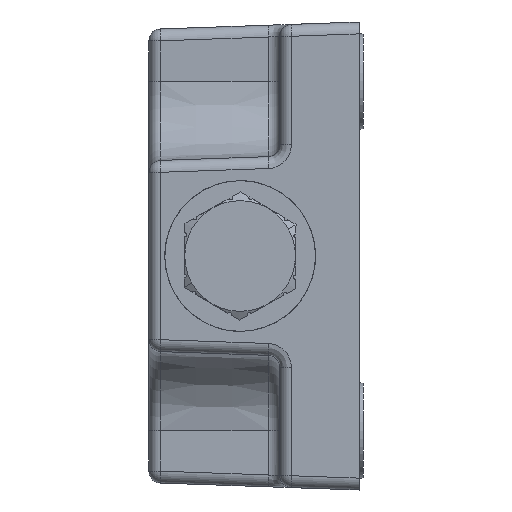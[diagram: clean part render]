
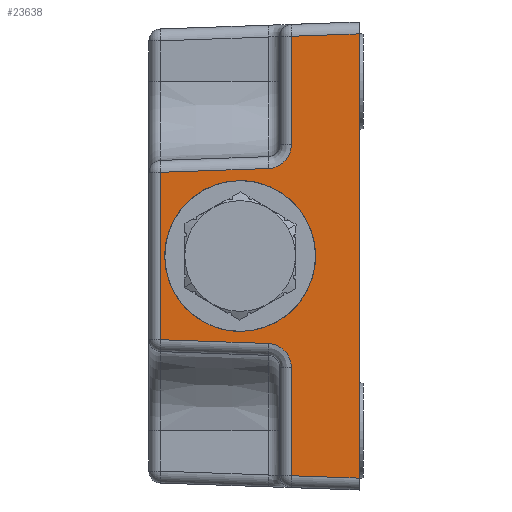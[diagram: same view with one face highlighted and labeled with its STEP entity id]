
A CAD part, left-side view. The second image highlights one B-rep face of the part: STEP entity #23638.
In plain terms, the highlighted planar face has unit normal (-0.999, 0.035, 0).
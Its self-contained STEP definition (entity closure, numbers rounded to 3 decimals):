
#169 = CARTESIAN_POINT ( 'NONE',  ( -37.889, 2.741, 9.5 ) ) ;
#408 = VECTOR ( 'NONE', #7441, 1000. ) ;
#1274 = EDGE_CURVE ( 'NONE', #3977, #6809, #6119, .T. ) ;
#1823 = VERTEX_POINT ( 'NONE', #17234 ) ;
#1885 = VERTEX_POINT ( 'NONE', #7640 ) ;
#2252 = LINE ( 'NONE', #26240, #3018 ) ;
#2757 = EDGE_CURVE ( 'NONE', #1885, #30628, #4954, .T. ) ;
#3018 = VECTOR ( 'NONE', #11635, 1000. ) ;
#3117 = CARTESIAN_POINT ( 'NONE',  ( -38.114, -3.707, -12.316 ) ) ;
#3977 = VERTEX_POINT ( 'NONE', #21959 ) ;
#4613 = LINE ( 'NONE', #18840, #23301 ) ;
#4954 = LINE ( 'NONE', #19009, #30900 ) ;
#5091 = VERTEX_POINT ( 'NONE', #8763 ) ;
#5629 = ORIENTED_EDGE ( 'NONE', *, *, #14513, .T. ) ;
#5685 = CARTESIAN_POINT ( 'NONE',  ( -37.889, 2.741, 9.5 ) ) ;
#5918 = CARTESIAN_POINT ( 'NONE',  ( -38.435, -12.889, -11.448 ) ) ;
#5970 = VECTOR ( 'NONE', #26701, 1000. ) ;
#5977 = CARTESIAN_POINT ( 'NONE',  ( -38.413, -12.259, 28.001 ) ) ;
#6119 = LINE ( 'NONE', #22072, #408 ) ;
#6672 = DIRECTION ( 'NONE',  ( 0.035, 0.999, -0.035 ) ) ;
#6744 = LINE ( 'NONE', #12083, #5970 ) ;
#6809 = VERTEX_POINT ( 'NONE', #16618 ) ;
#6846 = DIRECTION ( 'NONE',  ( 0., 0., -1. ) ) ;
#7273 = ORIENTED_EDGE ( 'NONE', *, *, #21246, .T. ) ;
#7441 = DIRECTION ( 'NONE',  ( 0., 0., -1. ) ) ;
#7483 = CARTESIAN_POINT ( 'NONE',  ( -38.013, -0.811, 11.027 ) ) ;
#7595 = CARTESIAN_POINT ( 'NONE',  ( -38.114, -3.707, 12.316 ) ) ;
#7640 = CARTESIAN_POINT ( 'NONE',  ( -38.114, -3.707, 27.702 ) ) ;
#7984 = LINE ( 'NONE', #5918, #9067 ) ;
#8009 = ORIENTED_EDGE ( 'NONE', *, *, #1274, .T. ) ;
#8305 = CARTESIAN_POINT ( 'NONE',  ( -38.343, -10.256, 27.931 ) ) ;
#8310 = ORIENTED_EDGE ( 'NONE', *, *, #2757, .T. ) ;
#8763 = CARTESIAN_POINT ( 'NONE',  ( -38.413, -12.259, -28.001 ) ) ;
#9067 = VECTOR ( 'NONE', #23010, 1000. ) ;
#10059 = VERTEX_POINT ( 'NONE', #17069 ) ;
#10287 =( BOUNDED_CURVE ( )  B_SPLINE_CURVE ( 3, ( #20222, #3117, #27564, #12931 ),
 .UNSPECIFIED., .F., .T. ) 
 B_SPLINE_CURVE_WITH_KNOTS ( ( 4, 4 ),
 ( 0., 1.536 ),
 .UNSPECIFIED. ) 
 CURVE ( )  GEOMETRIC_REPRESENTATION_ITEM ( )  RATIONAL_B_SPLINE_CURVE ( ( 1., 0.813, 0.813, 1. ) ) 
 REPRESENTATION_ITEM ( '' )  );
#10620 = EDGE_CURVE ( 'NONE', #30915, #31504, #11648, .T. ) ;
#10766 = DIRECTION ( 'NONE',  ( 0.035, 0.999, -0.035 ) ) ;
#11070 = ORIENTED_EDGE ( 'NONE', *, *, #12244, .T. ) ;
#11221 = ORIENTED_EDGE ( 'NONE', *, *, #24865, .T. ) ;
#11635 = DIRECTION ( 'NONE',  ( 0., 0., -1. ) ) ;
#11648 =( BOUNDED_CURVE ( )  B_SPLINE_CURVE ( 3, ( #169, #14684, #29330, #17261 ),
 .UNSPECIFIED., .F., .T. ) 
 B_SPLINE_CURVE_WITH_KNOTS ( ( 4, 4 ),
 ( 4.712, 7.854 ),
 .UNSPECIFIED. ) 
 CURVE ( )  GEOMETRIC_REPRESENTATION_ITEM ( )  RATIONAL_B_SPLINE_CURVE ( ( 1., 0.333, 0.333, 1. ) ) 
 REPRESENTATION_ITEM ( '' )  );
#11826 = EDGE_CURVE ( 'NONE', #31504, #30915, #18279, .T. ) ;
#12083 = CARTESIAN_POINT ( 'NONE',  ( -38.413, -12.259, -29.5 ) ) ;
#12244 = EDGE_CURVE ( 'NONE', #17907, #31037, #2252, .T. ) ;
#12417 =( BOUNDED_CURVE ( )  B_SPLINE_CURVE ( 3, ( #7483, #19780, #7595, #24657 ),
 .UNSPECIFIED., .F., .T. ) 
 B_SPLINE_CURVE_WITH_KNOTS ( ( 4, 4 ),
 ( 1.606, 3.142 ),
 .UNSPECIFIED. ) 
 CURVE ( )  GEOMETRIC_REPRESENTATION_ITEM ( )  RATIONAL_B_SPLINE_CURVE ( ( 1., 0.813, 0.813, 1. ) ) 
 REPRESENTATION_ITEM ( '' )  );
#12460 = EDGE_CURVE ( 'NONE', #3977, #10059, #10287, .T. ) ;
#12536 = VECTOR ( 'NONE', #10766, 1000. ) ;
#12627 = DIRECTION ( 'NONE',  ( -0.035, -0.999, -0.035 ) ) ;
#12643 = VERTEX_POINT ( 'NONE', #5977 ) ;
#12931 = CARTESIAN_POINT ( 'NONE',  ( -38.013, -0.811, -11.027 ) ) ;
#13743 = DIRECTION ( 'NONE',  ( -0.035, -0.999, 0. ) ) ;
#13995 = VECTOR ( 'NONE', #12627, 1000. ) ;
#14513 = EDGE_CURVE ( 'NONE', #5091, #12643, #6744, .T. ) ;
#14684 = CARTESIAN_POINT ( 'NONE',  ( -37.226, 21.741, 9.5 ) ) ;
#15203 = EDGE_LOOP ( 'NONE', ( #28252, #30883, #11070, #11221, #20762, #8009, #30020, #5629, #7273, #8310 ) ) ;
#15372 = CARTESIAN_POINT ( 'NONE',  ( -38.553, -16.259, -9.5 ) ) ;
#15503 = ORIENTED_EDGE ( 'NONE', *, *, #10620, .F. ) ;
#15862 = CARTESIAN_POINT ( 'NONE',  ( -38.413, -12.259, -29.5 ) ) ;
#16618 = CARTESIAN_POINT ( 'NONE',  ( -38.114, -3.707, -27.702 ) ) ;
#17069 = CARTESIAN_POINT ( 'NONE',  ( -38.013, -0.811, -11.027 ) ) ;
#17234 = CARTESIAN_POINT ( 'NONE',  ( -38.013, -0.811, 11.027 ) ) ;
#17261 = CARTESIAN_POINT ( 'NONE',  ( -37.889, 2.741, -9.5 ) ) ;
#17324 = EDGE_CURVE ( 'NONE', #1823, #17907, #4613, .T. ) ;
#17730 = CARTESIAN_POINT ( 'NONE',  ( -37.889, 2.741, -9.5 ) ) ;
#17907 = VERTEX_POINT ( 'NONE', #20427 ) ;
#18279 =( BOUNDED_CURVE ( )  B_SPLINE_CURVE ( 3, ( #17730, #15372, #20332, #5685 ),
 .UNSPECIFIED., .F., .T. ) 
 B_SPLINE_CURVE_WITH_KNOTS ( ( 4, 4 ),
 ( 1.571, 4.712 ),
 .UNSPECIFIED. ) 
 CURVE ( )  GEOMETRIC_REPRESENTATION_ITEM ( )  RATIONAL_B_SPLINE_CURVE ( ( 1., 0.333, 0.333, 1. ) ) 
 REPRESENTATION_ITEM ( '' )  );
#18840 = CARTESIAN_POINT ( 'NONE',  ( -38.363, -10.833, 11.377 ) ) ;
#19009 = CARTESIAN_POINT ( 'NONE',  ( -38.114, -3.707, -29.5 ) ) ;
#19021 = LINE ( 'NONE', #8305, #12536 ) ;
#19213 = EDGE_CURVE ( 'NONE', #1823, #30628, #12417, .T. ) ;
#19780 = CARTESIAN_POINT ( 'NONE',  ( -38.073, -2.52, 11.086 ) ) ;
#20222 = CARTESIAN_POINT ( 'NONE',  ( -38.114, -3.707, -14.025 ) ) ;
#20332 = CARTESIAN_POINT ( 'NONE',  ( -38.553, -16.259, 9.5 ) ) ;
#20427 = CARTESIAN_POINT ( 'NONE',  ( -37.538, 12.793, 10.551 ) ) ;
#20523 = LINE ( 'NONE', #24783, #13995 ) ;
#20762 = ORIENTED_EDGE ( 'NONE', *, *, #12460, .F. ) ;
#21246 = EDGE_CURVE ( 'NONE', #12643, #1885, #19021, .T. ) ;
#21959 = CARTESIAN_POINT ( 'NONE',  ( -38.114, -3.707, -14.025 ) ) ;
#22057 = EDGE_CURVE ( 'NONE', #6809, #5091, #20523, .T. ) ;
#22072 = CARTESIAN_POINT ( 'NONE',  ( -38.114, -3.707, -29.5 ) ) ;
#23010 = DIRECTION ( 'NONE',  ( -0.035, -0.999, -0.035 ) ) ;
#23301 = VECTOR ( 'NONE', #6672, 1000. ) ;
#23374 = PLANE ( 'NONE',  #23849 ) ;
#23638 = ADVANCED_FACE ( 'NONE', ( #30889, #25146 ), #23374, .T. ) ;
#23849 = AXIS2_PLACEMENT_3D ( 'NONE', #15862, #28362, #13743 ) ;
#24242 = CARTESIAN_POINT ( 'NONE',  ( -38.114, -3.707, 14.025 ) ) ;
#24429 = ORIENTED_EDGE ( 'NONE', *, *, #11826, .F. ) ;
#24657 = CARTESIAN_POINT ( 'NONE',  ( -38.114, -3.707, 14.025 ) ) ;
#24732 = EDGE_LOOP ( 'NONE', ( #24429, #15503 ) ) ;
#24783 = CARTESIAN_POINT ( 'NONE',  ( -38.415, -12.311, -28.003 ) ) ;
#24865 = EDGE_CURVE ( 'NONE', #31037, #10059, #7984, .T. ) ;
#24915 = CARTESIAN_POINT ( 'NONE',  ( -37.889, 2.741, -9.5 ) ) ;
#25146 = FACE_OUTER_BOUND ( 'NONE', #15203, .T. ) ;
#25362 = CARTESIAN_POINT ( 'NONE',  ( -37.538, 12.793, -10.551 ) ) ;
#26240 = CARTESIAN_POINT ( 'NONE',  ( -37.538, 12.793, -12. ) ) ;
#26701 = DIRECTION ( 'NONE',  ( 0., 0., 1. ) ) ;
#27430 = CARTESIAN_POINT ( 'NONE',  ( -37.889, 2.741, 9.5 ) ) ;
#27564 = CARTESIAN_POINT ( 'NONE',  ( -38.073, -2.52, -11.086 ) ) ;
#28252 = ORIENTED_EDGE ( 'NONE', *, *, #19213, .F. ) ;
#28362 = DIRECTION ( 'NONE',  ( -0.999, 0.035, 0. ) ) ;
#29330 = CARTESIAN_POINT ( 'NONE',  ( -37.226, 21.741, -9.5 ) ) ;
#30020 = ORIENTED_EDGE ( 'NONE', *, *, #22057, .T. ) ;
#30628 = VERTEX_POINT ( 'NONE', #24242 ) ;
#30883 = ORIENTED_EDGE ( 'NONE', *, *, #17324, .T. ) ;
#30889 = FACE_BOUND ( 'NONE', #24732, .T. ) ;
#30900 = VECTOR ( 'NONE', #6846, 1000. ) ;
#30915 = VERTEX_POINT ( 'NONE', #27430 ) ;
#31037 = VERTEX_POINT ( 'NONE', #25362 ) ;
#31504 = VERTEX_POINT ( 'NONE', #24915 ) ;
